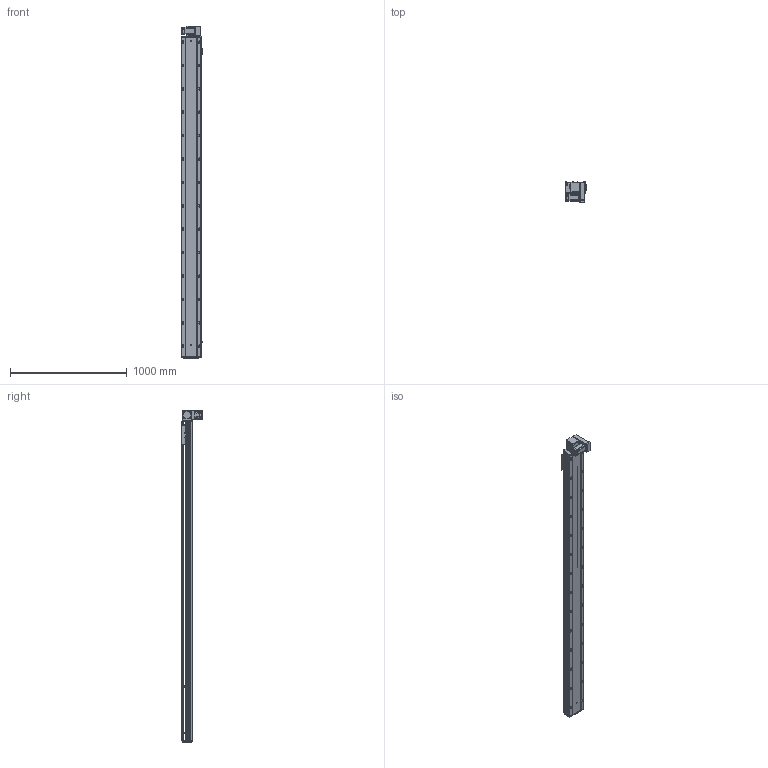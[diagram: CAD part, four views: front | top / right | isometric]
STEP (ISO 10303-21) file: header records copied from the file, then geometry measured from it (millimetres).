
FILE_DESCRIPTION (( 'STEP AP203' ), '1' );
FILE_NAME ('RY170-T-300-DR-P400W.SLDASM_2450.step', '2021-03-01T08:25:38', ( '盈信电脑' ), ( '东莞市道滘镇水果街19号' ), 'SwSTEP 2.0', 'SolidWorks 2012', '' );
FILE_SCHEMA (( 'CONFIG_CONTROL_DESIGN' ));
Length unit declared in the file: millimetre
Products named in the file (19): RY170-T-呴雄粣揤踡啣; 15; RY170-T-300-DR-P400W.SLDASM_2450; 滅袉蝶18-10; RY170-T肮祭謫裔啣; RY170-T蹟翐M4; RY120-T主同步轮轴承压盖; RY170-T肮祭湍揤踡輸2; RY170-T肮祭湍揤踡輸1; RY170肮祭謫萇儂欶; RY170同步轮电机安装板(400W); RY170肮祭謫ヶ裔啣; RY170翋肮祭謫釱; 覜茼ん672; RY170外置感应片(200共用）; RY170綴裔啣; RY170-T-300肮祭謫倰第裔啣-DR_2450; RY170肮祭湍臏賑輸; RY170-T-300肮祭謫倰第菁釱-DR_2450
Assembly tree (23 placements, depth 2):
  RY170-T-300-DR-P400W.SLDASM_2450
    RY170-T-300肮祭謫倰第菁釱-DR_2450
    RY170肮祭湍臏賑輸
    RY170-T-300肮祭謫倰第裔啣-DR_2450
    RY170綴裔啣
    覜茼ん672  x3
    RY170外置感应片(200共用）
    RY170肮祭謫ヶ裔啣
    RY170翋肮祭謫釱
    RY170同步轮电机安装板(400W)
    RY170肮祭謫萇儂欶
    RY170-T肮祭湍揤踡輸1  x2
    RY170-T肮祭湍揤踡輸2  x2
    RY120-T主同步轮轴承压盖
    RY170-T肮祭謫裔啣
    RY170-T蹟翐M4
    滅袉蝶18-10  x2
    RY170-T-呴雄粣揤踡啣
    15
Bounding box: 183.7 x 178 x 2838 mm (x, y, z)
Volume: 12961275.5 mm3; surface area: 4485326.9 mm2
Topology: 23 solids, 23 shells, 3142 faces, 8854 edges, 5631 vertices
Faces by surface type: cylinder 1498, plane 1278, cone 336, bspline 30
Entity records: 96741 total; most frequent: CARTESIAN_POINT 22826, ORIENTED_EDGE 15216, DIRECTION 14750, EDGE_CURVE 7608, AXIS2_PLACEMENT_3D 5265, VERTEX_POINT 4987, VECTOR 4220, LINE 4220
